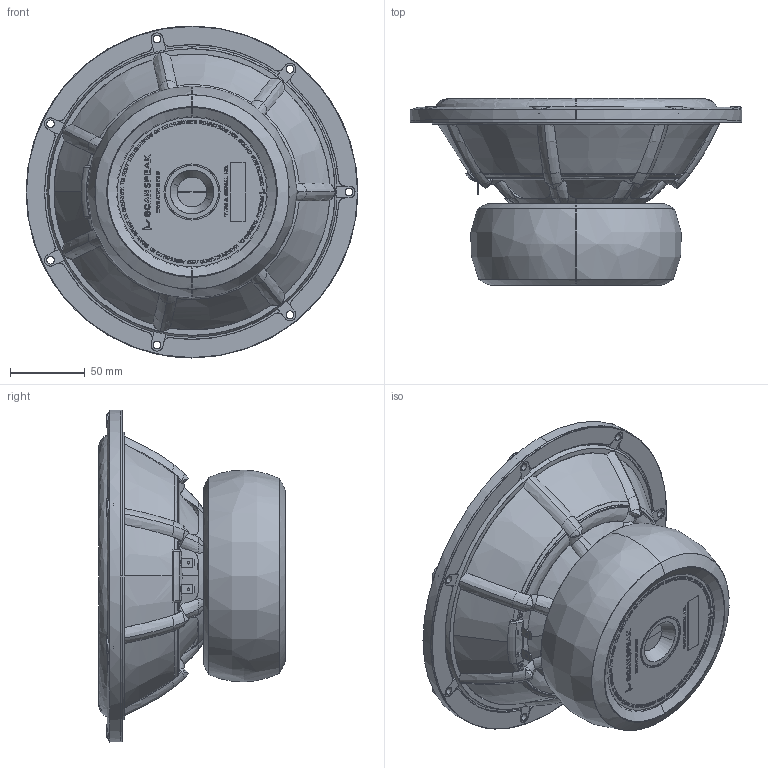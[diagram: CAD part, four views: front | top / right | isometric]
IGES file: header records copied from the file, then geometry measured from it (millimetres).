
Start section: SolidWorks IGES file using analytic representation for surfaces
Global section: file name: W:\TT\22W\22W-8857T00.IGS; native system: SolidWorks 2019; preprocessor: SolidWorks 2019; author: mhn; date: 201125.123829; units: millimetre
Bounding box: 222 x 124.87 x 222 mm (x, y, z)
Surface area: 235401.9 mm2 (no closed solid volume)
Topology: 0 solids, 0 shells, 3148 faces, 32464 edges, 32433 vertices
Faces by surface type: bspline 2881, revolution 267
